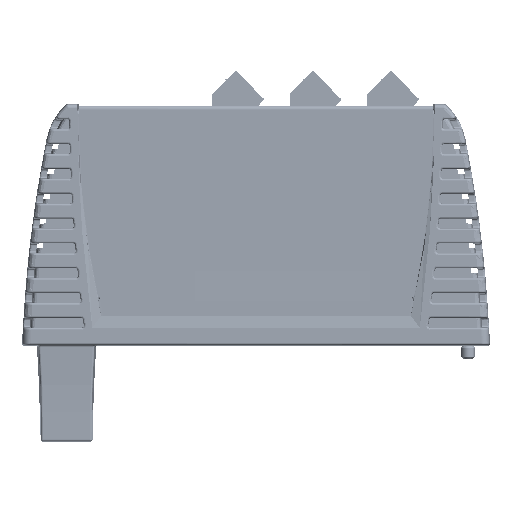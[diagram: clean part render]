
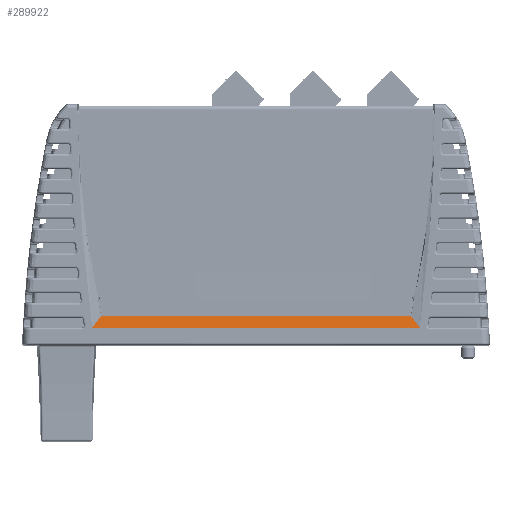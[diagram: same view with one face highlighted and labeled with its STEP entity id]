
A CAD part, left-side view. The second image highlights one B-rep face of the part: STEP entity #289922.
In plain terms, the highlighted planar face has unit normal (-0.986, 0, 0.164).
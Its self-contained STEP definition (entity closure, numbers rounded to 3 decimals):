
#340 = EDGE_CURVE ( 'NONE', #182969, #100393, #161368, .T. ) ;
#17370 = FACE_OUTER_BOUND ( 'NONE', #194372, .T. ) ;
#23532 = ORIENTED_EDGE ( 'NONE', *, *, #294599, .F. ) ;
#26063 = DIRECTION ( 'NONE',  ( 0.164, 0., 0.986 ) ) ;
#34098 = CARTESIAN_POINT ( 'NONE',  ( -8.7, 13.75, -27.5 ) ) ;
#35784 = AXIS2_PLACEMENT_3D ( 'NONE', #307460, #179617, #26063 ) ;
#62325 = CARTESIAN_POINT ( 'NONE',  ( -8.7, -41.25, -27.5 ) ) ;
#72431 = EDGE_CURVE ( 'NONE', #195006, #100393, #312604, .T. ) ;
#82648 = CARTESIAN_POINT ( 'NONE',  ( -8.2, 39., -24.5 ) ) ;
#85562 = CARTESIAN_POINT ( 'NONE',  ( -8.7, -41.25, -27.5 ) ) ;
#96937 = CARTESIAN_POINT ( 'NONE',  ( -8.45, 40.125, -26. ) ) ;
#100393 = VERTEX_POINT ( 'NONE', #250006 ) ;
#121459 = ORIENTED_EDGE ( 'NONE', *, *, #340, .F. ) ;
#122705 = DIRECTION ( 'NONE',  ( -0.132, 0.595, -0.793 ) ) ;
#122934 = CARTESIAN_POINT ( 'NONE',  ( -8.2, -39., -24.5 ) ) ;
#124694 = VECTOR ( 'NONE', #122705, 1000. ) ;
#143373 = ORIENTED_EDGE ( 'NONE', *, *, #72431, .T. ) ;
#153829 = PLANE ( 'NONE',  #35784 ) ;
#161368 = B_SPLINE_CURVE_WITH_KNOTS ( 'NONE', 1,
 ( #218021, #62325 ),
 .UNSPECIFIED., .F., .F.,
 ( 2, 2 ),
 ( 0., 1. ),
 .UNSPECIFIED. ) ;
#179617 = DIRECTION ( 'NONE',  ( 0.986, 0., -0.164 ) ) ;
#182969 = VERTEX_POINT ( 'NONE', #122934 ) ;
#191613 = VERTEX_POINT ( 'NONE', #82648 ) ;
#194372 = EDGE_LOOP ( 'NONE', ( #143373, #121459, #23532, #323876 ) ) ;
#195006 = VERTEX_POINT ( 'NONE', #300842 ) ;
#202360 = LINE ( 'NONE', #314632, #314640 ) ;
#203752 = EDGE_CURVE ( 'NONE', #191613, #195006, #261176, .T. ) ;
#213380 = CARTESIAN_POINT ( 'NONE',  ( -8.7, 41.25, -27.5 ) ) ;
#218021 = CARTESIAN_POINT ( 'NONE',  ( -8.2, -39., -24.5 ) ) ;
#237233 = DIRECTION ( 'NONE',  ( 0., -1., 0. ) ) ;
#239188 = CARTESIAN_POINT ( 'NONE',  ( -8.7, -13.75, -27.5 ) ) ;
#250006 = CARTESIAN_POINT ( 'NONE',  ( -8.7, -41.25, -27.5 ) ) ;
#261176 = LINE ( 'NONE', #96937, #124694 ) ;
#289922 = ADVANCED_FACE ( 'NONE', ( #17370 ), #153829, .F. ) ;
#294599 = EDGE_CURVE ( 'NONE', #191613, #182969, #202360, .T. ) ;
#300842 = CARTESIAN_POINT ( 'NONE',  ( -8.7, 41.25, -27.5 ) ) ;
#307460 = CARTESIAN_POINT ( 'NONE',  ( -8.7, 41.745, -27.5 ) ) ;
#312604 = B_SPLINE_CURVE_WITH_KNOTS ( 'NONE', 3,
 ( #213380, #34098, #239188, #85562 ),
 .UNSPECIFIED., .F., .F.,
 ( 4, 4 ),
 ( 0., 1. ),
 .UNSPECIFIED. ) ;
#314632 = CARTESIAN_POINT ( 'NONE',  ( -8.2, 0., -24.5 ) ) ;
#314640 = VECTOR ( 'NONE', #237233, 1000. ) ;
#323876 = ORIENTED_EDGE ( 'NONE', *, *, #203752, .T. ) ;
